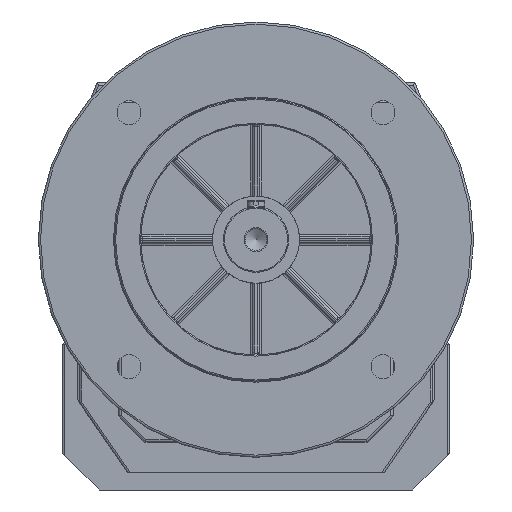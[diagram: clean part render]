
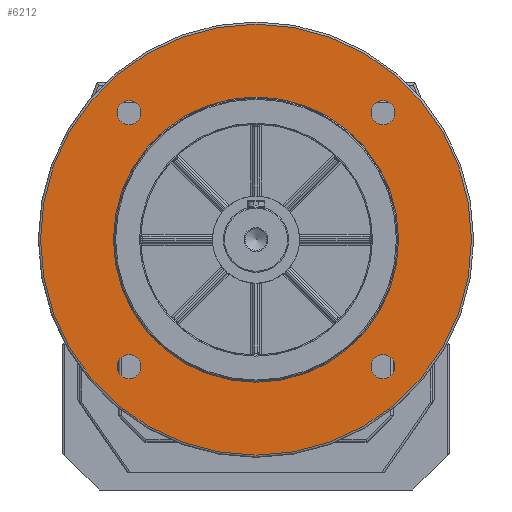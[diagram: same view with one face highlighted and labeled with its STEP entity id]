
A CAD part, front view. The second image highlights one B-rep face of the part: STEP entity #6212.
In plain terms, the highlighted planar face has unit normal (0, -1, 0).
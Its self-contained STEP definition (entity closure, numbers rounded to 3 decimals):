
#105=CARTESIAN_POINT('',(-52.836,-112.5,173.336));
#106=VERTEX_POINT('',#105);
#107=CARTESIAN_POINT('',(-58.336,-112.5,173.336));
#108=DIRECTION('',(0.0,1.0,0.0));
#109=DIRECTION('',(1.0,0.0,0.0));
#110=AXIS2_PLACEMENT_3D('',#107,#108,#109);
#111=CIRCLE('',#110,5.5);
#112=EDGE_CURVE('',#106,#106,#111,.T.);
#154=CARTESIAN_POINT('',(-52.836,-112.5,56.664));
#155=VERTEX_POINT('',#154);
#156=CARTESIAN_POINT('',(-58.336,-112.5,56.664));
#157=DIRECTION('',(0.0,1.0,0.0));
#158=DIRECTION('',(1.0,0.0,0.0));
#159=AXIS2_PLACEMENT_3D('',#156,#157,#158);
#160=CIRCLE('',#159,5.5);
#161=EDGE_CURVE('',#155,#155,#160,.T.);
#203=CARTESIAN_POINT('',(63.836,-112.5,56.664));
#204=VERTEX_POINT('',#203);
#205=CARTESIAN_POINT('',(58.336,-112.5,56.664));
#206=DIRECTION('',(0.0,1.0,0.0));
#207=DIRECTION('',(1.0,0.0,0.0));
#208=AXIS2_PLACEMENT_3D('',#205,#206,#207);
#209=CIRCLE('',#208,5.5);
#210=EDGE_CURVE('',#204,#204,#209,.T.);
#252=CARTESIAN_POINT('',(63.836,-112.5,173.336));
#253=VERTEX_POINT('',#252);
#254=CARTESIAN_POINT('',(58.336,-112.5,173.336));
#255=DIRECTION('',(0.0,1.0,0.0));
#256=DIRECTION('',(1.0,0.0,0.0));
#257=AXIS2_PLACEMENT_3D('',#254,#255,#256);
#258=CIRCLE('',#257,5.5);
#259=EDGE_CURVE('',#253,#253,#258,.T.);
#6166=CARTESIAN_POINT('',(0.0,-112.5,214.0));
#6167=VERTEX_POINT('',#6166);
#6168=CARTESIAN_POINT('',(0.0,-112.5,115.));
#6169=DIRECTION('',(0.0,1.0,0.0));
#6170=DIRECTION('',(0.0,0.0,-1.0));
#6171=AXIS2_PLACEMENT_3D('',#6168,#6169,#6170);
#6172=CIRCLE('',#6171,99.);
#6173=EDGE_CURVE('',#6167,#6167,#6172,.T.);
#6181=CARTESIAN_POINT('',(0.0,-112.5,197.5));
#6182=DIRECTION('',(0.0,-1.0,0.0));
#6183=DIRECTION('',(0.0,0.0,-1.0));
#6184=AXIS2_PLACEMENT_3D('',#6181,#6182,#6183);
#6185=PLANE('',#6184);
#6186=ORIENTED_EDGE('',*,*,#6173,.F.);
#6187=EDGE_LOOP('',(#6186));
#6188=FACE_OUTER_BOUND('',#6187,.T.);
#6189=ORIENTED_EDGE('',*,*,#112,.T.);
#6190=EDGE_LOOP('',(#6189));
#6191=FACE_BOUND('',#6190,.T.);
#6192=ORIENTED_EDGE('',*,*,#161,.T.);
#6193=EDGE_LOOP('',(#6192));
#6194=FACE_BOUND('',#6193,.T.);
#6195=ORIENTED_EDGE('',*,*,#210,.T.);
#6196=EDGE_LOOP('',(#6195));
#6197=FACE_BOUND('',#6196,.T.);
#6198=ORIENTED_EDGE('',*,*,#259,.T.);
#6199=EDGE_LOOP('',(#6198));
#6200=FACE_BOUND('',#6199,.T.);
#6201=CARTESIAN_POINT('',(0.,-112.5,180.5));
#6202=VERTEX_POINT('',#6201);
#6203=CARTESIAN_POINT('',(0.0,-112.5,115.));
#6204=DIRECTION('',(0.0,-1.0,0.0));
#6205=DIRECTION('',(0.0,0.0,-1.0));
#6206=AXIS2_PLACEMENT_3D('',#6203,#6204,#6205);
#6207=CIRCLE('',#6206,65.5);
#6208=EDGE_CURVE('',#6202,#6202,#6207,.T.);
#6209=ORIENTED_EDGE('',*,*,#6208,.F.);
#6210=EDGE_LOOP('',(#6209));
#6211=FACE_BOUND('',#6210,.T.);
#6212=ADVANCED_FACE('',(#6188,#6191,#6194,#6197,#6200,#6211),#6185,.T.);
